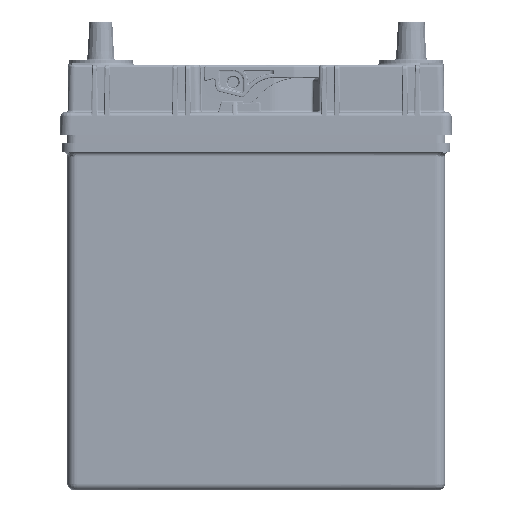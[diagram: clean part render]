
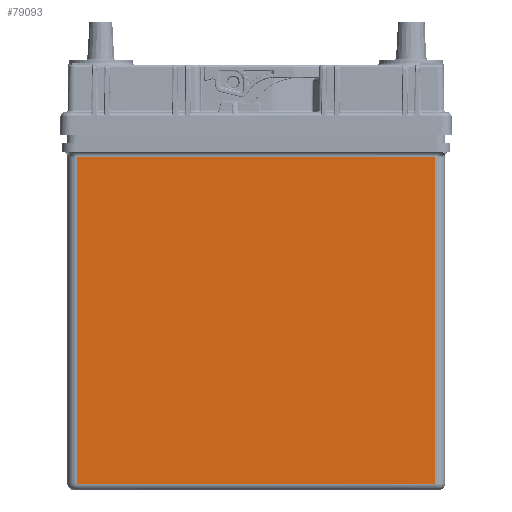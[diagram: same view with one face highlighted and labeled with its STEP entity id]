
A CAD part, left-side view. The second image highlights one B-rep face of the part: STEP entity #79093.
In plain terms, the highlighted planar face has unit normal (-1, 0, 0).
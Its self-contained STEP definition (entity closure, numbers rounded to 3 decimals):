
#65949=LINE('',#233883,#72553);
#65952=LINE('',#233946,#72556);
#65953=LINE('',#234220,#72557);
#65956=LINE('',#234497,#72560);
#72553=VECTOR('',#176673,1.);
#72556=VECTOR('',#176684,1.);
#72557=VECTOR('',#176691,1.);
#72560=VECTOR('',#176702,1.);
#79093=ADVANCED_FACE('',(#88070),#85001,.F.);
#85001=PLANE('',#165367);
#88070=FACE_OUTER_BOUND('',#95252,.T.);
#95252=EDGE_LOOP('',(#109368,#109369,#109370,#109371));
#109368=ORIENTED_EDGE('',*,*,#149002,.F.);
#109369=ORIENTED_EDGE('',*,*,#148998,.F.);
#109370=ORIENTED_EDGE('',*,*,#148987,.F.);
#109371=ORIENTED_EDGE('',*,*,#148995,.T.);
#137245=VERTEX_POINT('',#233718);
#137249=VERTEX_POINT('',#233790);
#137254=VERTEX_POINT('',#233884);
#137255=VERTEX_POINT('',#233885);
#148987=EDGE_CURVE('LINE',#137254,#137255,#65949,.T.);
#148995=EDGE_CURVE('LINE',#137254,#137245,#65952,.T.);
#148998=EDGE_CURVE('LINE',#137255,#137249,#65953,.T.);
#149002=EDGE_CURVE('LINE',#137249,#137245,#65956,.T.);
#165367=AXIS2_PLACEMENT_3D('',#234500,#176707,#176708);
#176673=DIRECTION('',(0.,-1.,0.));
#176684=DIRECTION('',(0.,0.,-1.));
#176691=DIRECTION('',(0.,0.,-1.));
#176702=DIRECTION('',(0.,1.,0.));
#176707=DIRECTION('',(1.,0.,0.));
#176708=DIRECTION('',(0.,0.,-1.));
#233718=CARTESIAN_POINT('',(-59.75,84.458,-172.5));
#233790=CARTESIAN_POINT('',(-59.75,-86.442,-172.5));
#233883=CARTESIAN_POINT('',(-59.75,49.008,-16.59));
#233884=CARTESIAN_POINT('',(-59.75,84.458,-16.59));
#233885=CARTESIAN_POINT('',(-59.75,-86.442,-16.59));
#233946=CARTESIAN_POINT('',(-59.75,84.458,-96.045));
#234220=CARTESIAN_POINT('',(-59.75,-86.442,-96.045));
#234497=CARTESIAN_POINT('',(-59.75,42.483,-172.5));
#234500=CARTESIAN_POINT('',(-59.75,-0.992,-156.445));
